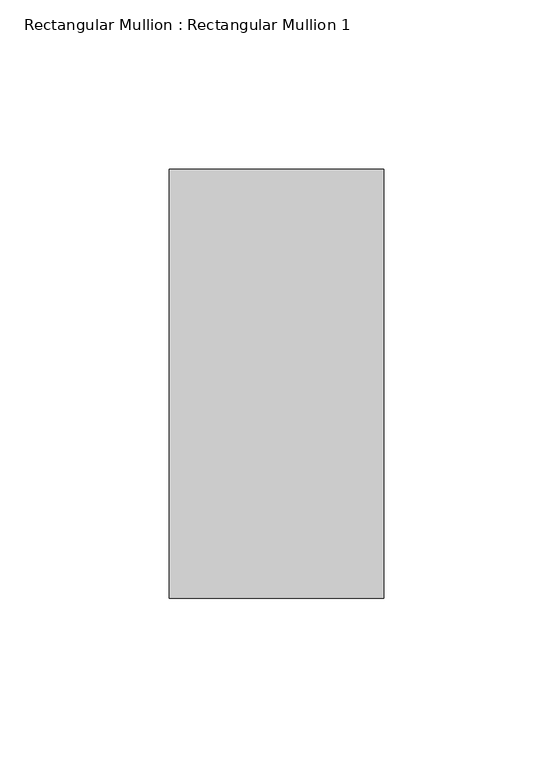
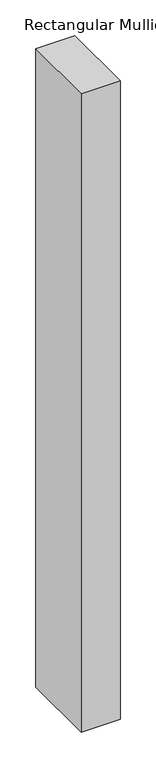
"""IFC4 building model written with IfcOpenShell, lengths in millimetres: member geometry, Rectangular Mullion : Rectangular Mullion 1."""

from ifc_helpers import new_model, si_unit, frame, origin, place, context, project, spatial, polyline, outline, extrude, source, transform, mapped, element, save


def rectangular_mullion_rectangular_mullion_1_867fe1e1(model_context):
    return source(origin(), model_context, "Body", "SweptSolid", [
        extrude(outline(polyline([(31.75, 63.5), (31.75, -63.5), (-31.75, -63.5), (-31.75, 63.5), (31.75, 63.5)])), frame((0.0, 0.0, -1092.2), z_axis=(0.0, 0.0, 1.0), x_axis=(1.0, 0.0, 0.0)), (0.0, 0.0, 1.0), 1092.2),
    ])


if __name__ == "__main__":
    model = new_model("IFC4")
    model_context = context("Model", 3, world=origin())
    ifc_project = project(units=[si_unit("LENGTHUNIT", "METRE", prefix="MILLI")], contexts=[model_context])
    site = spatial("IfcSite", under=ifc_project)
    building = spatial("IfcBuilding", under=site)
    placement = place(None, origin())
    rectangular_mullion_rectangular_mullion_1_shape = rectangular_mullion_rectangular_mullion_1_867fe1e1(model_context)
    element("IfcMember", 1, ObjectType="Rectangular Mullion : Rectangular Mullion 1", at=placement, inside=building, context=model_context, shape_type="MappedRepresentation", body=[
        mapped(rectangular_mullion_rectangular_mullion_1_shape, transform((0.0, 0.0, 0.0), x_axis=(1.0, 0.0, 0.0), y_axis=(0.0, 1.0, 0.0), z_axis=(0.0, 0.0, 1.0))),
    ])
    save(model, "model.ifc")
